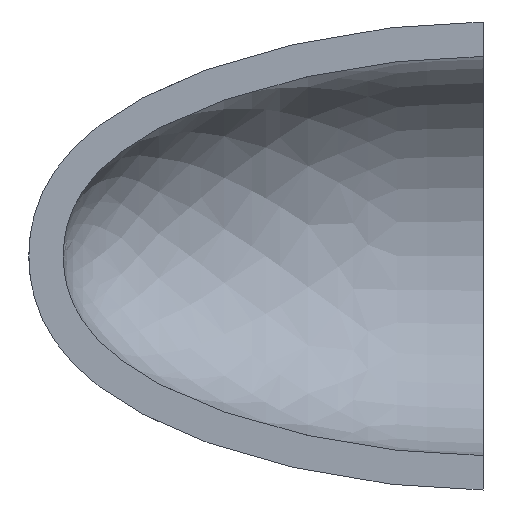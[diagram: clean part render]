
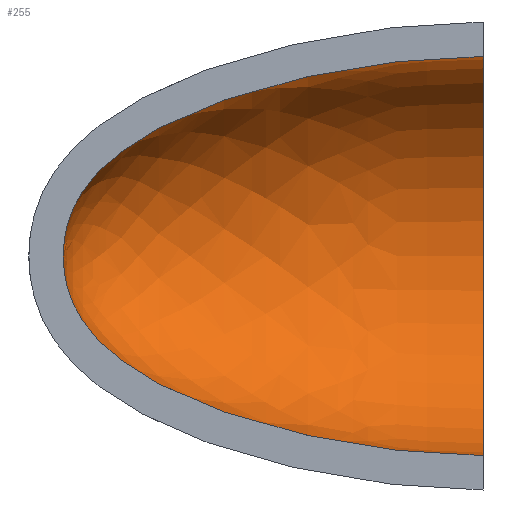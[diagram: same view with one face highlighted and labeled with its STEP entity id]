
A CAD part, left-side view. The second image highlights one B-rep face of the part: STEP entity #255.
In plain terms, the highlighted face is a revolution surface.
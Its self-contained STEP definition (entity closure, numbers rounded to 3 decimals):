
#100=CARTESIAN_POINT('Axis2P3D Location',(0.,0.,0.)) ;
#104=CARTESIAN_POINT('Vertex',(0.,0.,58.)) ;
#106=CARTESIAN_POINT('Vertex',(0.,0.,-58.)) ;
#132=CARTESIAN_POINT('Control Point',(0.,0.,-58.)) ;
#133=CARTESIAN_POINT('Control Point',(0.,2.209,-58.)) ;
#134=CARTESIAN_POINT('Control Point',(0.,4.444,-57.966)) ;
#135=CARTESIAN_POINT('Control Point',(0.,6.702,-57.898)) ;
#136=CARTESIAN_POINT('Control Point',(0.,12.725,-57.635)) ;
#137=CARTESIAN_POINT('Control Point',(0.,18.878,-57.153)) ;
#138=CARTESIAN_POINT('Control Point',(0.,22.744,-56.773)) ;
#139=CARTESIAN_POINT('Control Point',(0.,30.526,-55.856)) ;
#140=CARTESIAN_POINT('Control Point',(0.,38.385,-54.627)) ;
#141=CARTESIAN_POINT('Control Point',(0.,42.321,-53.936)) ;
#142=CARTESIAN_POINT('Control Point',(0.,50.171,-52.401)) ;
#143=CARTESIAN_POINT('Control Point',(0.,57.976,-50.545)) ;
#144=CARTESIAN_POINT('Control Point',(0.,61.846,-49.538)) ;
#145=CARTESIAN_POINT('Control Point',(0.,69.718,-47.294)) ;
#146=CARTESIAN_POINT('Control Point',(0.,77.39,-44.663)) ;
#147=CARTESIAN_POINT('Control Point',(0.,81.252,-43.207)) ;
#148=CARTESIAN_POINT('Control Point',(0.,87.488,-40.607)) ;
#149=CARTESIAN_POINT('Control Point',(0.,93.392,-37.667)) ;
#150=CARTESIAN_POINT('Control Point',(0.,95.666,-36.45)) ;
#151=CARTESIAN_POINT('Control Point',(0.,99.762,-34.079)) ;
#152=CARTESIAN_POINT('Control Point',(0.,103.57,-31.505)) ;
#153=CARTESIAN_POINT('Control Point',(0.,105.261,-30.271)) ;
#154=CARTESIAN_POINT('Control Point',(0.,108.318,-27.85)) ;
#155=CARTESIAN_POINT('Control Point',(0.,111.062,-25.274)) ;
#156=CARTESIAN_POINT('Control Point',(0.,112.281,-24.023)) ;
#157=CARTESIAN_POINT('Control Point',(0.,114.227,-21.829)) ;
#158=CARTESIAN_POINT('Control Point',(0.,115.92,-19.542)) ;
#159=CARTESIAN_POINT('Control Point',(0.,116.578,-18.578)) ;
#160=CARTESIAN_POINT('Control Point',(0.,117.791,-16.633)) ;
#161=CARTESIAN_POINT('Control Point',(0.,118.822,-14.626)) ;
#162=CARTESIAN_POINT('Control Point',(0.,119.287,-13.615)) ;
#163=CARTESIAN_POINT('Control Point',(0.,120.122,-11.573)) ;
#164=CARTESIAN_POINT('Control Point',(0.,120.777,-9.46)) ;
#165=CARTESIAN_POINT('Control Point',(0.,121.057,-8.392)) ;
#166=CARTESIAN_POINT('Control Point',(0.,121.548,-6.133)) ;
#167=CARTESIAN_POINT('Control Point',(0.,121.846,-3.788)) ;
#168=CARTESIAN_POINT('Control Point',(0.,121.949,-2.548)) ;
#169=CARTESIAN_POINT('Control Point',(0.,122.,-1.285)) ;
#170=CARTESIAN_POINT('Control Point',(0.,122.,0.)) ;
#171=CARTESIAN_POINT('Vertex',(0.,122.,0.)) ;
#175=CARTESIAN_POINT('Control Point',(0.,0.,58.)) ;
#176=CARTESIAN_POINT('Control Point',(0.,2.209,58.)) ;
#177=CARTESIAN_POINT('Control Point',(0.,4.444,57.966)) ;
#178=CARTESIAN_POINT('Control Point',(0.,6.702,57.898)) ;
#179=CARTESIAN_POINT('Control Point',(0.,12.725,57.635)) ;
#180=CARTESIAN_POINT('Control Point',(0.,18.878,57.153)) ;
#181=CARTESIAN_POINT('Control Point',(0.,22.744,56.773)) ;
#182=CARTESIAN_POINT('Control Point',(0.,30.526,55.856)) ;
#183=CARTESIAN_POINT('Control Point',(0.,38.385,54.627)) ;
#184=CARTESIAN_POINT('Control Point',(0.,42.321,53.936)) ;
#185=CARTESIAN_POINT('Control Point',(0.,50.171,52.401)) ;
#186=CARTESIAN_POINT('Control Point',(0.,57.976,50.545)) ;
#187=CARTESIAN_POINT('Control Point',(0.,61.846,49.538)) ;
#188=CARTESIAN_POINT('Control Point',(0.,69.718,47.294)) ;
#189=CARTESIAN_POINT('Control Point',(0.,77.39,44.663)) ;
#190=CARTESIAN_POINT('Control Point',(0.,81.252,43.207)) ;
#191=CARTESIAN_POINT('Control Point',(0.,87.488,40.607)) ;
#192=CARTESIAN_POINT('Control Point',(0.,93.392,37.667)) ;
#193=CARTESIAN_POINT('Control Point',(0.,95.666,36.45)) ;
#194=CARTESIAN_POINT('Control Point',(0.,99.762,34.079)) ;
#195=CARTESIAN_POINT('Control Point',(0.,103.57,31.505)) ;
#196=CARTESIAN_POINT('Control Point',(0.,105.261,30.271)) ;
#197=CARTESIAN_POINT('Control Point',(0.,108.318,27.85)) ;
#198=CARTESIAN_POINT('Control Point',(0.,111.062,25.274)) ;
#199=CARTESIAN_POINT('Control Point',(0.,112.281,24.023)) ;
#200=CARTESIAN_POINT('Control Point',(0.,114.227,21.829)) ;
#201=CARTESIAN_POINT('Control Point',(0.,115.92,19.542)) ;
#202=CARTESIAN_POINT('Control Point',(0.,116.578,18.578)) ;
#203=CARTESIAN_POINT('Control Point',(0.,117.791,16.633)) ;
#204=CARTESIAN_POINT('Control Point',(0.,118.822,14.626)) ;
#205=CARTESIAN_POINT('Control Point',(0.,119.287,13.615)) ;
#206=CARTESIAN_POINT('Control Point',(0.,120.122,11.573)) ;
#207=CARTESIAN_POINT('Control Point',(0.,120.777,9.46)) ;
#208=CARTESIAN_POINT('Control Point',(0.,121.057,8.392)) ;
#209=CARTESIAN_POINT('Control Point',(0.,121.548,6.133)) ;
#210=CARTESIAN_POINT('Control Point',(0.,121.846,3.788)) ;
#211=CARTESIAN_POINT('Control Point',(0.,121.949,2.548)) ;
#212=CARTESIAN_POINT('Control Point',(0.,122.,1.285)) ;
#213=CARTESIAN_POINT('Control Point',(0.,122.,0.)) ;
#225=CARTESIAN_POINT('Control Point',(0.,0.,58.)) ;
#226=CARTESIAN_POINT('Control Point',(0.,7.029,58.)) ;
#227=CARTESIAN_POINT('Control Point',(0.,14.544,57.653)) ;
#228=CARTESIAN_POINT('Control Point',(0.,22.528,56.95)) ;
#229=CARTESIAN_POINT('Control Point',(0.,39.162,54.806)) ;
#230=CARTESIAN_POINT('Control Point',(0.,56.37,51.137)) ;
#231=CARTESIAN_POINT('Control Point',(0.,64.929,48.91)) ;
#232=CARTESIAN_POINT('Control Point',(0.,77.325,44.959)) ;
#233=CARTESIAN_POINT('Control Point',(0.,88.491,40.127)) ;
#234=CARTESIAN_POINT('Control Point',(0.,92.045,38.42)) ;
#235=CARTESIAN_POINT('Control Point',(0.,98.753,34.824)) ;
#236=CARTESIAN_POINT('Control Point',(0.,104.553,30.894)) ;
#237=CARTESIAN_POINT('Control Point',(0.,107.201,28.854)) ;
#238=CARTESIAN_POINT('Control Point',(0.,111.947,24.648)) ;
#239=CARTESIAN_POINT('Control Point',(0.,115.584,20.223)) ;
#240=CARTESIAN_POINT('Control Point',(0.,117.121,17.962)) ;
#241=CARTESIAN_POINT('Control Point',(0.,119.667,13.336)) ;
#242=CARTESIAN_POINT('Control Point',(0.,121.2,8.363)) ;
#243=CARTESIAN_POINT('Control Point',(0.,121.726,5.756)) ;
#244=CARTESIAN_POINT('Control Point',(0.,122.,2.976)) ;
#245=CARTESIAN_POINT('Control Point',(0.,122.,0.)) ;
#246=CARTESIAN_POINT('Axis1P Location',(0.,0.,0.)) ;
#101=DIRECTION('Axis2P3D Direction',(0.,1.,0.)) ;
#247=DIRECTION('Axis1P Direction',(0.,1.,0.)) ;
#102=AXIS2_PLACEMENT_3D('Circle Axis2P3D',#100,#101,$) ;
#251=ORIENTED_EDGE('',*,*,#108,.F.) ;
#252=ORIENTED_EDGE('',*,*,#214,.T.) ;
#253=ORIENTED_EDGE('',*,*,#173,.F.) ;
#255=ADVANCED_FACE('PartBody',(#254),#249,.F.) ;
#248=AXIS1_PLACEMENT('Revolution Surface Axis1P',#246,#247) ;
#131=B_SPLINE_CURVE_WITH_KNOTS('',5,(#132,#133,#134,#135,#136,#137,#138,#139,#140,#141,#142,#143,#144,#145,#146,#147,#148,#149,#150,#151,#152,#153,#154,#155,#156,#157,#158,#159,#160,#161,#162,#163,#164,#165,#166,#167,#168,#169,#170),.UNSPECIFIED.,.F.,.U.,(6,3,3,3,3,3,3,3,3,3,3,3,6),(0.,16.066,42.466,68.824,95.04,122.596,140.607,156.08,169.929,179.761,189.424,198.969,209.243),.UNSPECIFIED.) ;
#174=B_SPLINE_CURVE_WITH_KNOTS('',5,(#175,#176,#177,#178,#179,#180,#181,#182,#183,#184,#185,#186,#187,#188,#189,#190,#191,#192,#193,#194,#195,#196,#197,#198,#199,#200,#201,#202,#203,#204,#205,#206,#207,#208,#209,#210,#211,#212,#213),.UNSPECIFIED.,.F.,.U.,(6,3,3,3,3,3,3,3,3,3,3,3,6),(0.,16.066,42.466,68.824,95.04,122.596,140.607,156.08,169.929,179.761,189.424,198.969,209.243),.UNSPECIFIED.) ;
#224=B_SPLINE_CURVE_WITH_KNOTS('',5,(#225,#226,#227,#228,#229,#230,#231,#232,#233,#234,#235,#236,#237,#238,#239,#240,#241,#242,#243,#244,#245),.UNSPECIFIED.,.F.,.U.,(6,3,3,3,3,3,6),(0.,37.121,74.243,92.804,111.364,129.925,148.486),.UNSPECIFIED.) ;
#103=CIRCLE('generated circle',#102,58.) ;
#108=EDGE_CURVE('',#105,#107,#103,.T.) ;
#173=EDGE_CURVE('',#107,#172,#131,.T.) ;
#214=EDGE_CURVE('',#105,#172,#174,.T.) ;
#250=EDGE_LOOP('',(#251,#252,#253)) ;
#254=FACE_OUTER_BOUND('',#250,.T.) ;
#249=SURFACE_OF_REVOLUTION('Surface of Revolution',#224,#248) ;
#105=VERTEX_POINT('',#104) ;
#107=VERTEX_POINT('',#106) ;
#172=VERTEX_POINT('',#171) ;
